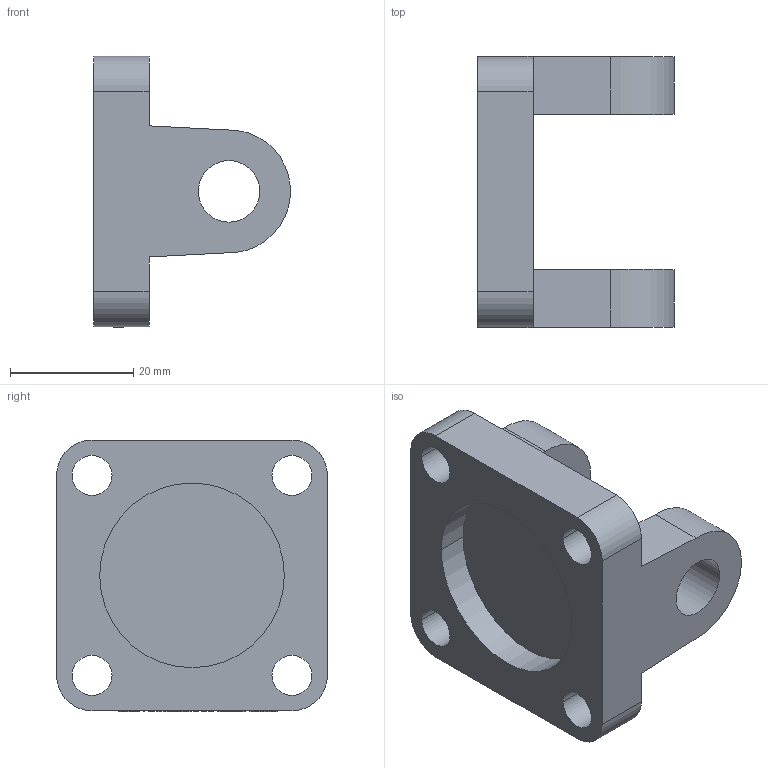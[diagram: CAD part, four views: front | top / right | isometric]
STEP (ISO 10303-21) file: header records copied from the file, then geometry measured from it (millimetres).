
FILE_DESCRIPTION(('CATIA V5 STEP Exchange'),'2;1');
FILE_NAME('D:\stp file for catalog\BAST-CB\CB 32.stp','2018-06-13T06:06:31+00:00',('none'),('none'),'CATIA Version 5-6 Release 2016','CATIA V5 STEP AP203','none');
FILE_SCHEMA(('CONFIG_CONTROL_DESIGN'));
Length unit declared in the file: millimetre
Products named in the file (1): PNC-CB32-01
Bounding box: 31.96 x 44 x 44.2 mm (x, y, z)
Volume: 18958.1 mm3; surface area: 8938.1 mm2
Topology: 1 solids, 1 shells, 459 faces, 1287 edges, 858 vertices
Faces by surface type: plane 439, cylinder 20
Entity records: 13981 total; most frequent: ORIENTED_EDGE 2574, CARTESIAN_POINT 2496, DIRECTION 1987, EDGE_CURVE 1287, VECTOR 1247, LINE 1247, VERTEX_POINT 858, EDGE_LOOP 499
